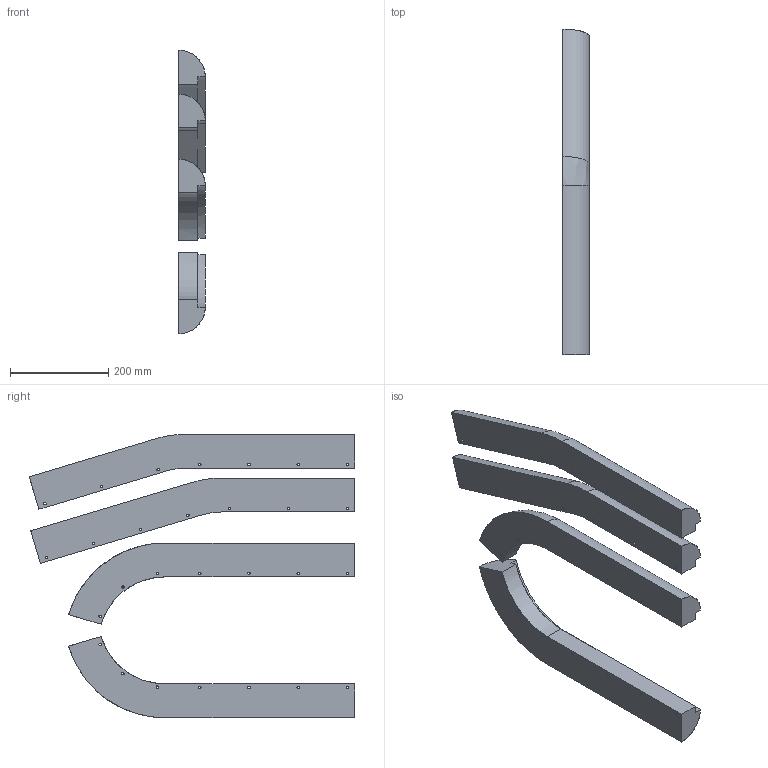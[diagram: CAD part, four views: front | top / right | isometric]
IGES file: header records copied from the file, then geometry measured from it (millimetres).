
Global section: file name: cantoneiras.igs; native system: NX V2312; preprocessor: SIEMENS PLM Software NX2312.5001; date: 20240809.190847; units: millimetre
Bounding box: 54 x 661.74 x 576.27 mm (x, y, z)
Surface area: 601247.5 mm2 (no closed solid volume)
Topology: 0 solids, 0 shells, 74 faces, 852 edges, 824 vertices
Faces by surface type: bspline 74
